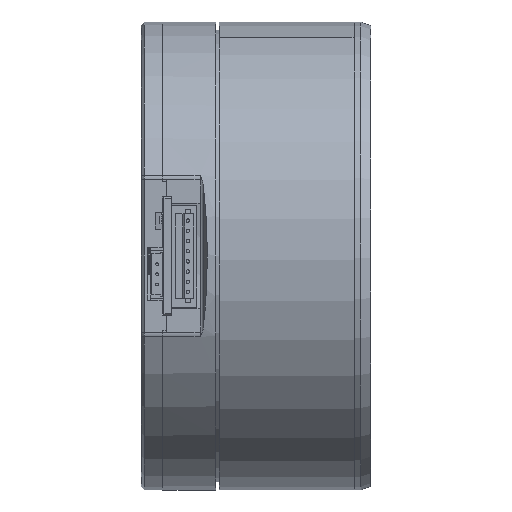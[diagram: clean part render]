
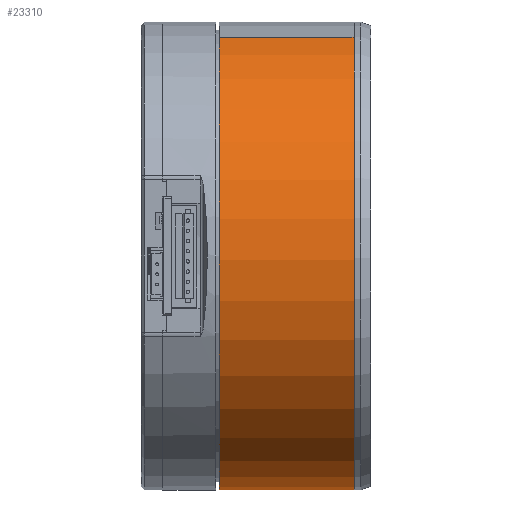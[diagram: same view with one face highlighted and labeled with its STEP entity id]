
A CAD part, front view. The second image highlights one B-rep face of the part: STEP entity #23310.
In plain terms, the highlighted cylindrical face has radius 34.5 mm (diameter 69 mm), a partial arc.
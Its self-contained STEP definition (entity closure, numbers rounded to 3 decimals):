
#1945 = CIRCLE ( 'NONE', #18274, 34.5 ) ;
#2817 = CARTESIAN_POINT ( 'NONE',  ( 22.7, 12.343, -32.216 ) ) ;
#7391 = DIRECTION ( 'NONE',  ( -1., 0., 0. ) ) ;
#7870 = AXIS2_PLACEMENT_3D ( 'NONE', #52230, #37700, #53743 ) ;
#10160 = ORIENTED_EDGE ( 'NONE', *, *, #45471, .T. ) ;
#10241 = EDGE_CURVE ( 'NONE', #37739, #41460, #1945, .T. ) ;
#13019 = EDGE_LOOP ( 'NONE', ( #18883, #10160, #46568, #26271 ) ) ;
#16099 = VERTEX_POINT ( 'NONE', #2817 ) ;
#18274 = AXIS2_PLACEMENT_3D ( 'NONE', #29473, #44759, #19744 ) ;
#18883 = ORIENTED_EDGE ( 'NONE', *, *, #36392, .F. ) ;
#19390 = AXIS2_PLACEMENT_3D ( 'NONE', #28695, #63592, #33841 ) ;
#19403 = CIRCLE ( 'NONE', #19390, 34.5 ) ;
#19744 = DIRECTION ( 'NONE',  ( 0., -0.358, 0.934 ) ) ;
#22872 = CARTESIAN_POINT ( 'NONE',  ( 22.7, 12.343, -32.216 ) ) ;
#23310 = ADVANCED_FACE ( 'NONE', ( #55909 ), #27921, .T. ) ;
#23367 = CARTESIAN_POINT ( 'NONE',  ( 22.7, -12.343, 32.216 ) ) ;
#26012 = VERTEX_POINT ( 'NONE', #49976 ) ;
#26271 = ORIENTED_EDGE ( 'NONE', *, *, #45877, .F. ) ;
#27921 = CYLINDRICAL_SURFACE ( 'NONE', #7870, 34.5 ) ;
#28695 = CARTESIAN_POINT ( 'NONE',  ( 22.7, 0., 0. ) ) ;
#29473 = CARTESIAN_POINT ( 'NONE',  ( 2.8, 0., 0. ) ) ;
#31029 = CARTESIAN_POINT ( 'NONE',  ( 2.8, -12.343, 32.216 ) ) ;
#33841 = DIRECTION ( 'NONE',  ( 0., -0.358, 0.934 ) ) ;
#36392 = EDGE_CURVE ( 'NONE', #26012, #16099, #19403, .T. ) ;
#36501 = LINE ( 'NONE', #22872, #55921 ) ;
#37700 = DIRECTION ( 'NONE',  ( -1., 0., 0. ) ) ;
#37739 = VERTEX_POINT ( 'NONE', #31029 ) ;
#41460 = VERTEX_POINT ( 'NONE', #42496 ) ;
#42496 = CARTESIAN_POINT ( 'NONE',  ( 2.8, 12.343, -32.216 ) ) ;
#44759 = DIRECTION ( 'NONE',  ( 1., 0., 0. ) ) ;
#45471 = EDGE_CURVE ( 'NONE', #26012, #37739, #60584, .T. ) ;
#45877 = EDGE_CURVE ( 'NONE', #16099, #41460, #36501, .T. ) ;
#46568 = ORIENTED_EDGE ( 'NONE', *, *, #10241, .T. ) ;
#47328 = VECTOR ( 'NONE', #58039, 1000. ) ;
#49976 = CARTESIAN_POINT ( 'NONE',  ( 22.7, -12.343, 32.216 ) ) ;
#52230 = CARTESIAN_POINT ( 'NONE',  ( 22.7, 0., 0. ) ) ;
#53743 = DIRECTION ( 'NONE',  ( 0., 0.358, -0.934 ) ) ;
#55909 = FACE_OUTER_BOUND ( 'NONE', #13019, .T. ) ;
#55921 = VECTOR ( 'NONE', #7391, 1000. ) ;
#58039 = DIRECTION ( 'NONE',  ( -1., 0., 0. ) ) ;
#60584 = LINE ( 'NONE', #23367, #47328 ) ;
#63592 = DIRECTION ( 'NONE',  ( 1., 0., 0. ) ) ;
